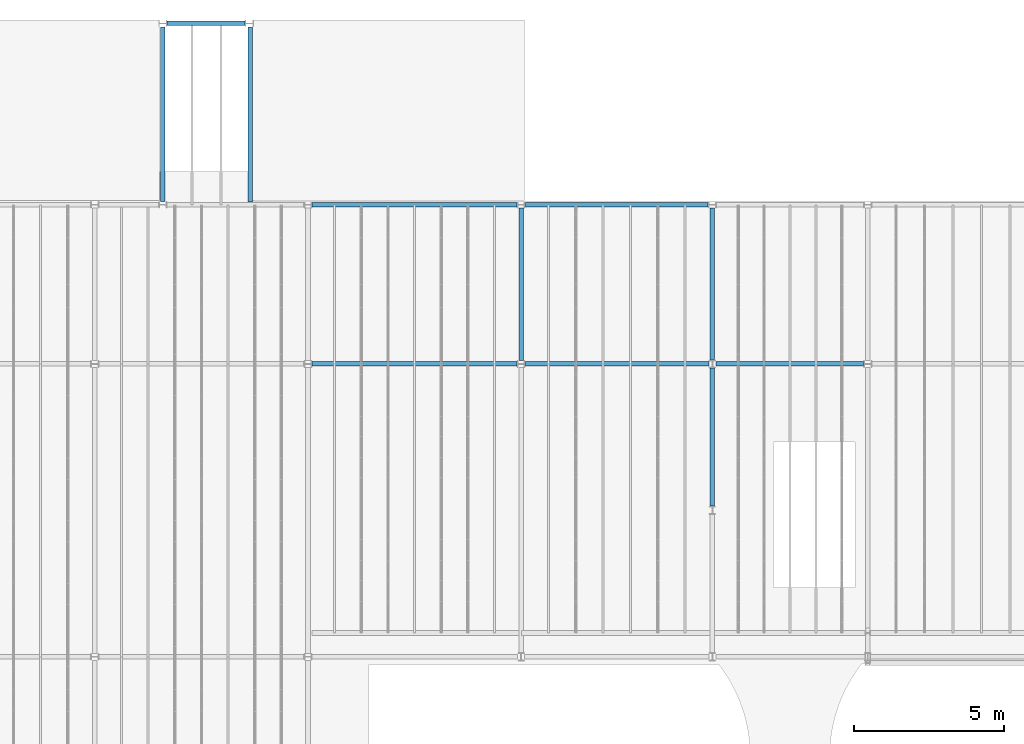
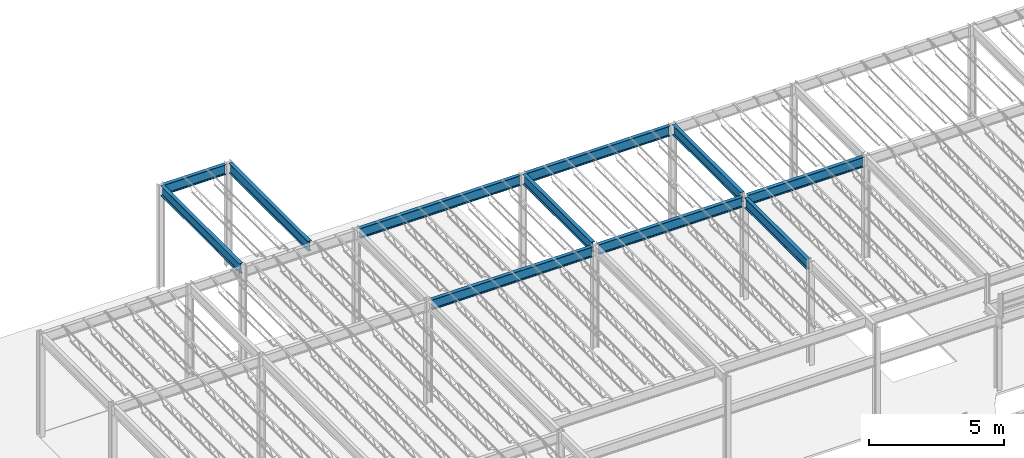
# One storey, part 17 of 119: 11 beams.
"""IFC2X3 building model written with IfcOpenShell, lengths in metres."""

import ifcopenshell
import ifcopenshell.guid

model = None  # the IFC model being written
_history = None  # IfcOwnerHistory: only IFC2X3 demands one
_inside = {}  # id of a spatial element -> (the spatial element, [elements in it])
_under = {}  # id of a project, library or spatial element -> (it, [spatial elements below it])
_declared = {}  # id of a project -> (the project, [libraries it declares])
_typed = {}  # id of a type object -> (the type object, [elements of that type])
_made_of = {}  # id of a material, layer set ... -> (it, [elements and type objects made of it])


def new_model(schema):
    """Start an empty IFC model of exactly this schema.

    Asked for "IFC4X3", IfcOpenShell would pick the latest addendum, in which some entities
    have other attributes; the version numbers below select the first issue.
    IFC2X3 requires an IfcOwnerHistory on every rooted entity: one is made here for all.
    """
    global model, _history
    if schema == "IFC4X3":
        model = ifcopenshell.file(schema_version=(4, 3, 0, 0))
    else:
        model = ifcopenshell.file(schema=schema)
    _inside.clear()
    _under.clear()
    _declared.clear()
    _typed.clear()
    _made_of.clear()
    _history = None
    if model.schema == "IFC2X3":
        org = make("IfcOrganization", Name="unknown")
        user = make(
            "IfcPersonAndOrganization",
            ThePerson=make("IfcPerson", FamilyName="unknown"),
            TheOrganization=org,
        )
        app = make(
            "IfcApplication",
            ApplicationDeveloper=org,
            Version="unknown",
            ApplicationFullName="unknown",
            ApplicationIdentifier="unknown",
        )
        _history = make(
            "IfcOwnerHistory",
            OwningUser=user,
            OwningApplication=app,
            ChangeAction="ADDED",
            CreationDate=0,
        )
    return model


def make(cls, **values):
    """One entity of the class cls with the attributes given. An attribute that is None is left unset."""
    return model.create_entity(
        cls, **{name: value for name, value in values.items() if value is not None}
    )


def entity(cls, *values):
    """Any entity or typed value of the class cls, its attributes in the order of the schema. None: left unset."""
    e = model.create_entity(cls)
    for i, value in enumerate(values):
        if value is not None:
            e[i] = value
    return e


def rooted(cls, **values):
    """An entity with a GlobalId (a new one), such as an element, a storey or a relation."""
    return make(cls, GlobalId=ifcopenshell.guid.new(), OwnerHistory=_history, **values)


def si_unit(unit_type, name, prefix=None):
    """IfcSIUnit, for example si_unit("LENGTHUNIT", "METRE", prefix="MILLI")."""
    return make("IfcSIUnit", UnitType=unit_type, Prefix=prefix, Name=name)


def converted_unit(unit_type, name, factor, base, dimensions=None, offset=None):
    """IfcConversionBasedUnit, such as the inch: factor (a typed value) times the base unit."""
    return make(
        "IfcConversionBasedUnit"
        if offset is None
        else "IfcConversionBasedUnitWithOffset",
        ConversionOffset=offset,
        Dimensions=None
        if dimensions is None
        else entity("IfcDimensionalExponents", *dimensions),
        UnitType=unit_type,
        Name=name,
        ConversionFactor=make(
            "IfcMeasureWithUnit", ValueComponent=factor, UnitComponent=base
        ),
    )


def assignment(units):
    """IfcUnitAssignment: the units of a project."""
    return None if units is None else make("IfcUnitAssignment", Units=units)


def point(xyz):
    """IfcCartesianPoint."""
    return None if xyz is None else make("IfcCartesianPoint", Coordinates=xyz)


def direction(xyz):
    """IfcDirection."""
    return None if xyz is None else make("IfcDirection", DirectionRatios=xyz)


def frame(location, z_axis=None, x_axis=None):
    """IfcAxis2Placement3D, a coordinate frame: its origin and axes. An axis left out is left unset."""
    return make(
        "IfcAxis2Placement3D",
        Location=point(location),
        Axis=direction(z_axis),
        RefDirection=direction(x_axis),
    )


def frame_2d(location, x_axis=None):
    """IfcAxis2Placement2D, a coordinate frame in the plane: its origin and x axis."""
    return make(
        "IfcAxis2Placement2D", Location=point(location), RefDirection=direction(x_axis)
    )


def origin():
    """The frame at (0, 0, 0) with its axes left unset."""
    return frame((0.0, 0.0, 0.0))


def place(relative_to, where):
    """IfcLocalPlacement: puts the frame where relative to a parent placement (None: the world)."""
    return make(
        "IfcLocalPlacement", PlacementRelTo=relative_to, RelativePlacement=where
    )


def context(
    kind, dimensions, precision=None, world=None, true_north=None, identifier=None
):
    """IfcGeometricRepresentationContext, for example the 3D "Model" context."""
    return make(
        "IfcGeometricRepresentationContext",
        ContextIdentifier=identifier,
        ContextType=kind,
        CoordinateSpaceDimension=dimensions,
        Precision=precision,
        WorldCoordinateSystem=world,
        TrueNorth=true_north,
    )


def project(units=None, contexts=None):
    """IfcProject with its units and contexts."""
    return rooted(
        "IfcProject",
        Name="project",
        RepresentationContexts=contexts,
        UnitsInContext=assignment(units),
    )


def spatial(cls, under=None, at=None, **own):
    """A site, building, storey or space (cls), placed at a placement, below another one or the project."""
    s = rooted(cls, ObjectPlacement=at, **own)
    if under is not None:
        _under.setdefault(under.id(), (under, []))[1].append(s)
    return s


def polyline(points):
    """IfcPolyline through the points."""
    return make("IfcPolyline", Points=[point(p) for p in points])


def circle_curve(where, radius):
    """IfcCircle in the frame where."""
    return make("IfcCircle", Position=where, Radius=radius)


def parameter(value):
    """IfcParameterValue: where a trimmed curve begins or ends, as a parameter of its basis curve."""
    return model.create_entity("IfcParameterValue", value)


def trimmed(basis, trim1, trim2, sense, master):
    """IfcTrimmedCurve: the piece of a basis curve between two trims."""
    return make(
        "IfcTrimmedCurve",
        BasisCurve=basis,
        Trim1=trim1,
        Trim2=trim2,
        SenseAgreement=sense,
        MasterRepresentation=master,
    )


def segment(curve, same_sense, transition):
    """IfcCompositeCurveSegment."""
    return make(
        "IfcCompositeCurveSegment",
        Transition=transition,
        SameSense=same_sense,
        ParentCurve=curve,
    )


def composite_curve(segments, self_intersect=None):
    """IfcCompositeCurve: segments joined end to end."""
    return make("IfcCompositeCurve", Segments=segments, SelfIntersect=self_intersect)


def outline(outer, holes=None, kind="AREA"):
    """IfcArbitraryClosedProfileDef: a profile drawn as a closed curve; with holes, ...WithVoids."""
    if holes is None:
        return make("IfcArbitraryClosedProfileDef", ProfileType=kind, OuterCurve=outer)
    return make(
        "IfcArbitraryProfileDefWithVoids",
        ProfileType=kind,
        OuterCurve=outer,
        InnerCurves=holes,
    )


def extrude(swept, where, along, depth):
    """IfcExtrudedAreaSolid: the profile swept, set in the frame where, extruded along a direction by depth."""
    return make(
        "IfcExtrudedAreaSolid",
        SweptArea=swept,
        Position=where,
        ExtrudedDirection=direction(along),
        Depth=depth,
    )


def shape(context_of_items, identifier, shape_type, items):
    """IfcShapeRepresentation: the items that make up one representation, for example the "Body"."""
    return make(
        "IfcShapeRepresentation",
        ContextOfItems=context_of_items,
        RepresentationIdentifier=identifier,
        RepresentationType=shape_type,
        Items=items,
    )


def material(Name=None, Category=None):
    """IfcMaterial."""
    return make("IfcMaterial", Name=Name, Category=Category)


def made_of(thing, what):
    """Note that an element or type object is made of a material, layer set ...; save() writes the relation."""
    if what is not None:
        _made_of.setdefault(what.id(), (what, []))[1].append(thing)
    return thing


def element(
    cls,
    number,
    at=None,
    inside=None,
    cuts=None,
    type_object=None,
    material=None,
    context=None,
    identifier="Body",
    shape_type=None,
    held_by="IfcProductDefinitionShape",
    body=None,
    shapes=None,
    **own,
):
    """One element of the class cls, such as IfcWall. Its Tag is "e" and its number.

    at: its placement. inside: the storey or other place that contains it. cuts: it is an
    opening in that element (IfcRelVoidsElement). A single representation is given by context,
    identifier, shape_type and body (its items); several are given by shapes. held_by: the class
    of the entity that holds the representations. save() writes the other relations.
    """
    e = rooted(cls, Tag="e%d" % number, ObjectPlacement=at, **own)
    if body is not None:
        shapes = [shape(context, identifier, shape_type, body)]
    if shapes is not None:
        e.Representation = make(held_by, Representations=shapes)
    if inside is not None:
        _inside.setdefault(inside.id(), (inside, []))[1].append(e)
    if cuts is not None:
        rooted(
            "IfcRelVoidsElement", RelatingBuildingElement=cuts, RelatedOpeningElement=e
        )
    if type_object is not None:
        _typed.setdefault(type_object.id(), (type_object, []))[1].append(e)
    return made_of(e, material)


def aggregate(whole, parts):
    """IfcRelAggregates: a whole, such as a stair, and the parts it consists of."""
    return rooted("IfcRelAggregates", RelatingObject=whole, RelatedObjects=parts)


def save(model, path):
    """Write the relations noted so far, then the file.

    IfcRelAggregates (storeys below a building ...), IfcRelContainedInSpatialStructure (elements
    in a storey), IfcRelDefinesByType, IfcRelAssociatesMaterial and IfcRelDeclares: one each for
    every whole, place, type object, material and project.
    """
    for whole, parts in _under.values():
        aggregate(whole, parts)
    for where, things in _inside.values():
        rooted(
            "IfcRelContainedInSpatialStructure",
            RelatedElements=things,
            RelatingStructure=where,
        )
    for kind, things in _typed.values():
        rooted("IfcRelDefinesByType", RelatedObjects=things, RelatingType=kind)
    for what, things in _made_of.values():
        rooted("IfcRelAssociatesMaterial", RelatedObjects=things, RelatingMaterial=what)
    for by, libraries in _declared.values():
        rooted("IfcRelDeclares", RelatingContext=by, RelatedDefinitions=libraries)
    model.write(path)


model = new_model("IFC2X3")

# Units and contexts
model_context = context("Model", 3, precision=1e-09, world=origin())
plan_context = context("Plan", 3, precision=1e-09, world=origin())
ifc_project = project(units=[si_unit("LENGTHUNIT", "METRE"), si_unit("AREAUNIT", "SQUARE_METRE"), si_unit("VOLUMEUNIT", "CUBIC_METRE"), converted_unit("PLANEANGLEUNIT", "DEGREE", entity("IfcRatioMeasure", 0.01745329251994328), si_unit("PLANEANGLEUNIT", "RADIAN"), dimensions=[0, 0, 0, 0, 0, 0, 0]), si_unit("TIMEUNIT", "SECOND")], contexts=[model_context, plan_context])

# Site, building, storey
site_placement = place(None, origin())
site = spatial("IfcSite", under=ifc_project, at=site_placement, Name="Default", CompositionType="ELEMENT")
building_placement = place(site_placement, origin())
building = spatial("IfcBuilding", under=site, at=building_placement, CompositionType="ELEMENT")
storey_placement = place(building_placement, frame((0.0, 0.0, 4.570000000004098)))
storey = spatial("IfcBuildingStorey", under=building, at=storey_placement, Name="Second Floor", CompositionType="ELEMENT", Elevation=4.570000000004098)

# Beams
ifc_material = material(Name="Metal - Steel - 345 MPa")
beam_1_placement = place(storey_placement, frame((-35.47950959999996, 50.24552240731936, 4.679999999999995)))
element("IfcBeam", 1, at=beam_1_placement, inside=storey, material=ifc_material, Name="M_W-Wide Flange:W460X60:W460X60", ObjectType="M_W-Wide Flange:W460X60", context=model_context, shape_type="SweptSolid", body=[
    extrude(outline(composite_curve([segment(polyline([(-0.07649999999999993, -0.2142000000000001), (-0.07649999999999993, -0.2275000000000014)]), True, "CONTINUOUS"), segment(polyline([(-0.07649999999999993, -0.2275000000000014), (0.07649999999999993, -0.2275000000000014)]), True, "CONTINUOUS"), segment(polyline([(0.07649999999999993, -0.2275000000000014), (0.07649999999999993, -0.2142000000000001)]), True, "CONTINUOUS"), segment(polyline([(0.07649999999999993, -0.2142000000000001), (0.0216999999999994, -0.2142000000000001)]), True, "CONTINUOUS"), segment(trimmed(circle_curve(frame_2d((0.0216999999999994, -0.1965000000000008), x_axis=(1.0, 0.0)), 0.0177), [parameter(180.0)], [parameter(269.9999999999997)], True, "PARAMETER"), False, "CONTINUOUS"), segment(polyline([(0.003999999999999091, -0.1965000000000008), (0.003999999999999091, 0.1964999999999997)]), True, "CONTINUOUS"), segment(trimmed(circle_curve(frame_2d((0.0216999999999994, 0.1964999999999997), x_axis=(1.0, 0.0)), 0.0177), [parameter(90.00000000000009)], [parameter(179.9999999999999)], True, "PARAMETER"), False, "CONTINUOUS"), segment(polyline([(0.0216999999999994, 0.2142), (0.07649999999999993, 0.2142)]), True, "CONTINUOUS"), segment(polyline([(0.07649999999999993, 0.2142), (0.07649999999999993, 0.2274999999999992)]), True, "CONTINUOUS"), segment(polyline([(0.07649999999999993, 0.2274999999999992), (-0.07649999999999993, 0.2274999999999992)]), True, "CONTINUOUS"), segment(polyline([(-0.07649999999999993, 0.2274999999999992), (-0.07649999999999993, 0.2142)]), True, "CONTINUOUS"), segment(polyline([(-0.07649999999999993, 0.2142), (-0.0216999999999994, 0.2142)]), True, "CONTINUOUS"), segment(trimmed(circle_curve(frame_2d((-0.0216999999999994, 0.1964999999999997), x_axis=(1.0, 0.0)), 0.0177), [parameter(359.9999999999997)], [parameter(89.99999999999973)], True, "PARAMETER"), False, "CONTINUOUS"), segment(polyline([(-0.003999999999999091, 0.1964999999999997), (-0.003999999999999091, -0.1965000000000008)]), True, "CONTINUOUS"), segment(trimmed(circle_curve(frame_2d((-0.0216999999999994, -0.1965000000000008), x_axis=(1.0, 0.0)), 0.0177), [parameter(269.9999999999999)], [parameter(0.0)], True, "PARAMETER"), False, "CONTINUOUS"), segment(polyline([(-0.0216999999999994, -0.2142000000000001), (-0.07649999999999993, -0.2142000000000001)]), True, "CONTINUOUS")], self_intersect=False)), frame((0.0, -0.06632240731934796, -0.2275000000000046), z_axis=(0.0, -1.0, 0.0), x_axis=(1.0, 0.0, 0.0)), (0.0, 0.0, -1.0), 5.846100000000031),
])
beam_2_placement = place(storey_placement, frame((-20.05999999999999, 39.89924697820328, 4.61649999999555)))
element("IfcBeam", 2, at=beam_2_placement, inside=storey, material=ifc_material, Name="M_W-Wide Flange:W460X60:W460X60", ObjectType="M_W-Wide Flange:W460X60", context=model_context, shape_type="SweptSolid", body=[
    extrude(outline(composite_curve([segment(polyline([(-0.07650000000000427, -0.2142000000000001), (-0.07650000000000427, -0.2275000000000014)]), True, "CONTINUOUS"), segment(polyline([(-0.07650000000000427, -0.2275000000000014), (0.0764999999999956, -0.2275000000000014)]), True, "CONTINUOUS"), segment(polyline([(0.0764999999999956, -0.2275000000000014), (0.0764999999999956, -0.2142000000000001)]), True, "CONTINUOUS"), segment(polyline([(0.0764999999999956, -0.2142000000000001), (0.02169999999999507, -0.2142000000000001)]), True, "CONTINUOUS"), segment(trimmed(circle_curve(frame_2d((0.02169999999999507, -0.1965000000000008), x_axis=(1.0, 0.0)), 0.0177), [parameter(180.0)], [parameter(269.9999999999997)], True, "PARAMETER"), False, "CONTINUOUS"), segment(polyline([(0.003999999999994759, -0.1965000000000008), (0.003999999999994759, 0.1964999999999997)]), True, "CONTINUOUS"), segment(trimmed(circle_curve(frame_2d((0.02169999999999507, 0.1964999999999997), x_axis=(1.0, 0.0)), 0.0177), [parameter(90.00000000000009)], [parameter(179.9999999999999)], True, "PARAMETER"), False, "CONTINUOUS"), segment(polyline([(0.02169999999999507, 0.2142), (0.0764999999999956, 0.2142)]), True, "CONTINUOUS"), segment(polyline([(0.0764999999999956, 0.2142), (0.0764999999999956, 0.2274999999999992)]), True, "CONTINUOUS"), segment(polyline([(0.0764999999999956, 0.2274999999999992), (-0.07650000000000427, 0.2274999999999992)]), True, "CONTINUOUS"), segment(polyline([(-0.07650000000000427, 0.2274999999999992), (-0.07650000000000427, 0.2142)]), True, "CONTINUOUS"), segment(polyline([(-0.07650000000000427, 0.2142), (-0.02170000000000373, 0.2142)]), True, "CONTINUOUS"), segment(trimmed(circle_curve(frame_2d((-0.02170000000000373, 0.1964999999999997), x_axis=(1.0, 0.0)), 0.0177), [parameter(359.9999999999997)], [parameter(89.99999999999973)], True, "PARAMETER"), False, "CONTINUOUS"), segment(polyline([(-0.004000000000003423, 0.1964999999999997), (-0.004000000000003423, -0.1965000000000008)]), True, "CONTINUOUS"), segment(trimmed(circle_curve(frame_2d((-0.02170000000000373, -0.1965000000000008), x_axis=(1.0, 0.0)), 0.0177), [parameter(269.9999999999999)], [parameter(0.0)], True, "PARAMETER"), False, "CONTINUOUS"), segment(polyline([(-0.02170000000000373, -0.2142000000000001), (-0.07650000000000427, -0.2142000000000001)]), True, "CONTINUOUS")], self_intersect=False)), frame((0.0, 0.1373322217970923, -0.2275000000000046), z_axis=(0.0, -1.0, 0.0), x_axis=(1.0, 0.0, 0.0)), (0.0, 0.0, -1.0), 4.60222079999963),
])
beam_3_placement = place(storey_placement, frame((-38.38999999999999, 56.13687699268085, 4.679999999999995), z_axis=(0.0, 0.0, 1.0), x_axis=(-1.0, 0.0, 0.0)))
element("IfcBeam", 3, at=beam_3_placement, inside=storey, material=ifc_material, Name="M_W-Wide Flange:W460X60:W460X60", ObjectType="M_W-Wide Flange:W460X60", context=model_context, shape_type="SweptSolid", body=[
    extrude(outline(composite_curve([segment(polyline([(0.2142000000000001, -0.07649999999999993), (0.2275000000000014, -0.07649999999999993)]), True, "CONTINUOUS"), segment(polyline([(0.2275000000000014, -0.07649999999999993), (0.2275000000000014, 0.07649999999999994)]), True, "CONTINUOUS"), segment(polyline([(0.2275000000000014, 0.07649999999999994), (0.2142000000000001, 0.07649999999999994)]), True, "CONTINUOUS"), segment(polyline([(0.2142000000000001, 0.07649999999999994), (0.2142000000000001, 0.0216999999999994)]), True, "CONTINUOUS"), segment(trimmed(circle_curve(frame_2d((0.1965000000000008, 0.0216999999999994), x_axis=(0.0, 1.0)), 0.0177), [parameter(180.0)], [parameter(269.9999999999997)], True, "PARAMETER"), False, "CONTINUOUS"), segment(polyline([(0.1965000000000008, 0.003999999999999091), (-0.1964999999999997, 0.003999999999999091)]), True, "CONTINUOUS"), segment(trimmed(circle_curve(frame_2d((-0.1964999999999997, 0.0216999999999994), x_axis=(0.0, 1.0)), 0.0177), [parameter(90.00000000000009)], [parameter(179.9999999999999)], True, "PARAMETER"), False, "CONTINUOUS"), segment(polyline([(-0.2142, 0.0216999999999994), (-0.2142, 0.07649999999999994)]), True, "CONTINUOUS"), segment(polyline([(-0.2142, 0.07649999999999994), (-0.2274999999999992, 0.07649999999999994)]), True, "CONTINUOUS"), segment(polyline([(-0.2274999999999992, 0.07649999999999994), (-0.2274999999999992, -0.07649999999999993)]), True, "CONTINUOUS"), segment(polyline([(-0.2274999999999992, -0.07649999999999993), (-0.2142, -0.07649999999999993)]), True, "CONTINUOUS"), segment(polyline([(-0.2142, -0.07649999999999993), (-0.2142, -0.0216999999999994)]), True, "CONTINUOUS"), segment(trimmed(circle_curve(frame_2d((-0.1964999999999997, -0.0216999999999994), x_axis=(0.0, 1.0)), 0.0177), [parameter(359.9999999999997)], [parameter(89.99999999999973)], True, "PARAMETER"), False, "CONTINUOUS"), segment(polyline([(-0.1964999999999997, -0.00399999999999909), (0.1965000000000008, -0.00399999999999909)]), True, "CONTINUOUS"), segment(trimmed(circle_curve(frame_2d((0.1965000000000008, -0.0216999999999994), x_axis=(0.0, 1.0)), 0.0177), [parameter(269.9999999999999)], [parameter(0.0)], True, "PARAMETER"), False, "CONTINUOUS"), segment(polyline([(0.2142000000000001, -0.0216999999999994), (0.2142000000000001, -0.07649999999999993)]), True, "CONTINUOUS")], self_intersect=False)), frame((0.0, 5.932176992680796, -0.2275000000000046), z_axis=(0.0, -1.0, 0.0), x_axis=(0.0, 0.0, -1.0)), (0.0, 0.0, 1.0), 5.820600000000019),
])
beam_4_placement = place(storey_placement, frame((-20.06296151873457, 50.08999999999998, 4.61649999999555), z_axis=(0.0, 0.0, 1.0), x_axis=(0.0, 1.0, 0.0)))
element("IfcBeam", 4, at=beam_4_placement, inside=storey, material=ifc_material, Name="M_W-Wide Flange:W460X60:W460X60", ObjectType="M_W-Wide Flange:W460X60", context=model_context, shape_type="SweptSolid", body=[
    extrude(outline(composite_curve([segment(polyline([(0.2142000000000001, -0.07649999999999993), (0.2275000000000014, -0.07649999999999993)]), True, "CONTINUOUS"), segment(polyline([(0.2275000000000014, -0.07649999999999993), (0.2275000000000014, 0.07649999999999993)]), True, "CONTINUOUS"), segment(polyline([(0.2275000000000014, 0.07649999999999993), (0.2142000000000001, 0.07649999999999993)]), True, "CONTINUOUS"), segment(polyline([(0.2142000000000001, 0.07649999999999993), (0.2142000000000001, 0.02170000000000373)]), True, "CONTINUOUS"), segment(trimmed(circle_curve(frame_2d((0.1965000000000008, 0.02170000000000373), x_axis=(1.0, 0.0)), 0.0177), [parameter(269.9999999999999)], [parameter(359.9999999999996)], True, "PARAMETER"), False, "CONTINUOUS"), segment(polyline([(0.1965000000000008, 0.003999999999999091), (-0.1964999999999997, 0.003999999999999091)]), True, "CONTINUOUS"), segment(trimmed(circle_curve(frame_2d((-0.1964999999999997, 0.02170000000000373), x_axis=(0.0, -1.0)), 0.0177), [parameter(269.9999999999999)], [parameter(359.9999999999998)], True, "PARAMETER"), False, "CONTINUOUS"), segment(polyline([(-0.2142, 0.02170000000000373), (-0.2142, 0.07649999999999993)]), True, "CONTINUOUS"), segment(polyline([(-0.2142, 0.07649999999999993), (-0.2274999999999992, 0.07649999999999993)]), True, "CONTINUOUS"), segment(polyline([(-0.2274999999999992, 0.07649999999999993), (-0.2274999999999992, -0.07649999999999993)]), True, "CONTINUOUS"), segment(polyline([(-0.2274999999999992, -0.07649999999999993), (-0.2142, -0.07649999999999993)]), True, "CONTINUOUS"), segment(polyline([(-0.2142, -0.07649999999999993), (-0.2142, -0.02170000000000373)]), True, "CONTINUOUS"), segment(trimmed(circle_curve(frame_2d((-0.1964999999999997, -0.02169999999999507), x_axis=(-1.0, 0.0)), 0.0177), [parameter(269.9999999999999)], [parameter(359.9999999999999)], True, "PARAMETER"), False, "CONTINUOUS"), segment(polyline([(-0.1964999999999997, -0.003999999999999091), (0.1965000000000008, -0.003999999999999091)]), True, "CONTINUOUS"), segment(trimmed(circle_curve(frame_2d((0.1965000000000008, -0.02169999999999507), x_axis=(0.0, 1.0)), 0.0177), [parameter(269.9999999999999)], [parameter(5.088887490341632e-14)], True, "PARAMETER"), False, "CONTINUOUS"), segment(polyline([(0.2142000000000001, -0.02170000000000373), (0.2142000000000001, -0.07649999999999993)]), True, "CONTINUOUS")], self_intersect=False)), frame((0.0, 6.235838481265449, -0.2275000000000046), z_axis=(0.0, -1.0, 0.0), x_axis=(0.0, 0.0, -1.0)), (0.0, 0.0, 1.0), 6.097600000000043),
])
beam_5_placement = place(storey_placement, frame((-20.05999999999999, 44.78355806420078, 4.679999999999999)))
element("IfcBeam", 5, at=beam_5_placement, inside=storey, material=ifc_material, Name="M_W-Wide Flange:W460X60:W460X60", ObjectType="M_W-Wide Flange:W460X60", context=model_context, shape_type="SweptSolid", body=[
    extrude(outline(composite_curve([segment(polyline([(-0.07649999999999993, -0.214199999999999), (-0.07649999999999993, -0.2275000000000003)]), True, "CONTINUOUS"), segment(polyline([(-0.07649999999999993, -0.2275000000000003), (0.07649999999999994, -0.2275000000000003)]), True, "CONTINUOUS"), segment(polyline([(0.07649999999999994, -0.2275000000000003), (0.07649999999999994, -0.214199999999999)]), True, "CONTINUOUS"), segment(polyline([(0.07649999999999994, -0.214199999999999), (0.02169999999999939, -0.214199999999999)]), True, "CONTINUOUS"), segment(trimmed(circle_curve(frame_2d((0.02169999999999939, -0.1964999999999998), x_axis=(1.0, 0.0)), 0.0177), [parameter(180.0)], [parameter(269.9999999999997)], True, "PARAMETER"), False, "CONTINUOUS"), segment(polyline([(0.003999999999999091, -0.1964999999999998), (0.003999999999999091, 0.1965000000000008)]), True, "CONTINUOUS"), segment(trimmed(circle_curve(frame_2d((0.02169999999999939, 0.1965000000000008), x_axis=(1.0, 0.0)), 0.0177), [parameter(90.00000000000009)], [parameter(179.9999999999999)], True, "PARAMETER"), False, "CONTINUOUS"), segment(polyline([(0.02169999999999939, 0.2142000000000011), (0.07649999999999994, 0.2142000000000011)]), True, "CONTINUOUS"), segment(polyline([(0.07649999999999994, 0.2142000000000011), (0.07649999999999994, 0.2275000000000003)]), True, "CONTINUOUS"), segment(polyline([(0.07649999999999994, 0.2275000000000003), (-0.07649999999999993, 0.2275000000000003)]), True, "CONTINUOUS"), segment(polyline([(-0.07649999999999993, 0.2275000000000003), (-0.07649999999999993, 0.2142000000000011)]), True, "CONTINUOUS"), segment(polyline([(-0.07649999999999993, 0.2142000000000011), (-0.0216999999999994, 0.2142000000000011)]), True, "CONTINUOUS"), segment(trimmed(circle_curve(frame_2d((-0.0216999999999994, 0.1965000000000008), x_axis=(1.0, 0.0)), 0.0177), [parameter(359.9999999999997)], [parameter(89.99999999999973)], True, "PARAMETER"), False, "CONTINUOUS"), segment(polyline([(-0.00399999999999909, 0.1965000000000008), (-0.00399999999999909, -0.1964999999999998)]), True, "CONTINUOUS"), segment(trimmed(circle_curve(frame_2d((-0.0216999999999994, -0.1964999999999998), x_axis=(1.0, 0.0)), 0.0177), [parameter(269.9999999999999)], [parameter(0.0)], True, "PARAMETER"), False, "CONTINUOUS"), segment(polyline([(-0.0216999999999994, -0.214199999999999), (-0.07649999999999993, -0.214199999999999)]), True, "CONTINUOUS")], self_intersect=False)), frame((0.0, 0.1376419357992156, -0.2275000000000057), z_axis=(0.0, -1.0, 0.0), x_axis=(1.0, 0.0, 0.0)), (0.0, 0.0, -1.0), 5.054100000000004),
])
beam_6_placement = place(storey_placement, frame((-33.54734247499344, 50.09000000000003, 4.61649999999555), z_axis=(0.0, 0.0, 1.0), x_axis=(0.0, -1.0, 0.0)))
element("IfcBeam", 6, at=beam_6_placement, inside=storey, material=ifc_material, Name="M_W-Wide Flange:W460X60:W460X60", ObjectType="M_W-Wide Flange:W460X60", context=model_context, shape_type="SweptSolid", body=[
    extrude(outline(composite_curve([segment(polyline([(-0.07649999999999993, -0.2142000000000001), (-0.07649999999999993, -0.2275000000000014)]), True, "CONTINUOUS"), segment(polyline([(-0.07649999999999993, -0.2275000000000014), (0.07649999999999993, -0.2275000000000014)]), True, "CONTINUOUS"), segment(polyline([(0.07649999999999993, -0.2275000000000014), (0.07649999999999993, -0.2142000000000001)]), True, "CONTINUOUS"), segment(polyline([(0.07649999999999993, -0.2142000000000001), (0.02170000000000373, -0.2142000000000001)]), True, "CONTINUOUS"), segment(trimmed(circle_curve(frame_2d((0.02169999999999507, -0.1965000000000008), x_axis=(0.0, -1.0)), 0.0177), [parameter(269.9999999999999)], [parameter(359.9999999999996)], True, "PARAMETER"), False, "CONTINUOUS"), segment(polyline([(0.003999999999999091, -0.1965000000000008), (0.003999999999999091, 0.1964999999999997)]), True, "CONTINUOUS"), segment(trimmed(circle_curve(frame_2d((0.02169999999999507, 0.1964999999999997), x_axis=(-1.0, 0.0)), 0.0177), [parameter(269.9999999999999)], [parameter(359.9999999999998)], True, "PARAMETER"), False, "CONTINUOUS"), segment(polyline([(0.02170000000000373, 0.2142), (0.07649999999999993, 0.2142)]), True, "CONTINUOUS"), segment(polyline([(0.07649999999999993, 0.2142), (0.07649999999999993, 0.2274999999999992)]), True, "CONTINUOUS"), segment(polyline([(0.07649999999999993, 0.2274999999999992), (-0.07649999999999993, 0.2274999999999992)]), True, "CONTINUOUS"), segment(polyline([(-0.07649999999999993, 0.2274999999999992), (-0.07649999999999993, 0.2142)]), True, "CONTINUOUS"), segment(polyline([(-0.07649999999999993, 0.2142), (-0.02170000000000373, 0.2142)]), True, "CONTINUOUS"), segment(trimmed(circle_curve(frame_2d((-0.02170000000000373, 0.1964999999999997), x_axis=(0.0, 1.0)), 0.0177), [parameter(269.9999999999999)], [parameter(359.9999999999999)], True, "PARAMETER"), False, "CONTINUOUS"), segment(polyline([(-0.003999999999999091, 0.1964999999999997), (-0.003999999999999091, -0.1965000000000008)]), True, "CONTINUOUS"), segment(trimmed(circle_curve(frame_2d((-0.02170000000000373, -0.1965000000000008), x_axis=(1.0, 0.0)), 0.0177), [parameter(269.9999999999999)], [parameter(5.088887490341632e-14)], True, "PARAMETER"), False, "CONTINUOUS"), segment(polyline([(-0.02170000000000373, -0.2142000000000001), (-0.07649999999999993, -0.2142000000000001)]), True, "CONTINUOUS")], self_intersect=False)), frame((0.0, 0.138542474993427, -0.2275000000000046), z_axis=(0.0, -1.0, 0.0), x_axis=(1.0, 0.0, 0.0)), (0.0, 0.0, -1.0), 6.827600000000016),
])
beam_7_placement = place(storey_placement, frame((-26.43703848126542, 44.78000000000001, 4.61649999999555), z_axis=(0.0, 0.0, 1.0), x_axis=(0.0, -1.0, 0.0)))
element("IfcBeam", 7, at=beam_7_placement, inside=storey, material=ifc_material, Name="M_W-Wide Flange:W460X60:W460X60", ObjectType="M_W-Wide Flange:W460X60", context=model_context, shape_type="SweptSolid", body=[
    extrude(outline(composite_curve([segment(polyline([(-0.07649999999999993, -0.2142000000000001), (-0.07649999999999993, -0.2275000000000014)]), True, "CONTINUOUS"), segment(polyline([(-0.07649999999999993, -0.2275000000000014), (0.07649999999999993, -0.2275000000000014)]), True, "CONTINUOUS"), segment(polyline([(0.07649999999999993, -0.2275000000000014), (0.07649999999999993, -0.2142000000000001)]), True, "CONTINUOUS"), segment(polyline([(0.07649999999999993, -0.2142000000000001), (0.02170000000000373, -0.2142000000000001)]), True, "CONTINUOUS"), segment(trimmed(circle_curve(frame_2d((0.02170000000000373, -0.1965000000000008), x_axis=(0.0, -1.0)), 0.0177), [parameter(269.9999999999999)], [parameter(359.9999999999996)], True, "PARAMETER"), False, "CONTINUOUS"), segment(polyline([(0.003999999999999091, -0.1965000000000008), (0.003999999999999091, 0.1964999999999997)]), True, "CONTINUOUS"), segment(trimmed(circle_curve(frame_2d((0.02170000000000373, 0.1964999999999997), x_axis=(-1.0, 0.0)), 0.0177), [parameter(269.9999999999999)], [parameter(359.9999999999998)], True, "PARAMETER"), False, "CONTINUOUS"), segment(polyline([(0.02170000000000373, 0.2142), (0.07649999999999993, 0.2142)]), True, "CONTINUOUS"), segment(polyline([(0.07649999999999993, 0.2142), (0.07649999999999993, 0.2274999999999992)]), True, "CONTINUOUS"), segment(polyline([(0.07649999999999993, 0.2274999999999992), (-0.07649999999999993, 0.2274999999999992)]), True, "CONTINUOUS"), segment(polyline([(-0.07649999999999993, 0.2274999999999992), (-0.07649999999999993, 0.2142)]), True, "CONTINUOUS"), segment(polyline([(-0.07649999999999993, 0.2142), (-0.02170000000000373, 0.2142)]), True, "CONTINUOUS"), segment(trimmed(circle_curve(frame_2d((-0.02169999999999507, 0.1964999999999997), x_axis=(0.0, 1.0)), 0.0177), [parameter(269.9999999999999)], [parameter(359.9999999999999)], True, "PARAMETER"), False, "CONTINUOUS"), segment(polyline([(-0.003999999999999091, 0.1964999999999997), (-0.003999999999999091, -0.1965000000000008)]), True, "CONTINUOUS"), segment(trimmed(circle_curve(frame_2d((-0.02169999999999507, -0.1965000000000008), x_axis=(1.0, 0.0)), 0.0177), [parameter(269.9999999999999)], [parameter(5.088887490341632e-14)], True, "PARAMETER"), False, "CONTINUOUS"), segment(polyline([(-0.02170000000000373, -0.2142000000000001), (-0.07649999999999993, -0.2142000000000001)]), True, "CONTINUOUS")], self_intersect=False)), frame((0.0, 0.1382384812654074, -0.2275000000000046), z_axis=(0.0, -1.0, 0.0), x_axis=(1.0, 0.0, 0.0)), (0.0, 0.0, -1.0), 6.12410000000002),
])
beam_8_placement = place(storey_placement, frame((-20.05635269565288, 44.77999999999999, 4.61649999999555), z_axis=(0.0, 0.0, 1.0), x_axis=(0.0, -1.0, 0.0)))
element("IfcBeam", 8, at=beam_8_placement, inside=storey, material=ifc_material, Name="M_W-Wide Flange:W460X60:W460X60", ObjectType="M_W-Wide Flange:W460X60", context=model_context, shape_type="SweptSolid", body=[
    extrude(outline(composite_curve([segment(polyline([(-0.07649999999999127, -0.2142000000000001), (-0.07649999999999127, -0.2275000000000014)]), True, "CONTINUOUS"), segment(polyline([(-0.07649999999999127, -0.2275000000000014), (0.07650000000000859, -0.2275000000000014)]), True, "CONTINUOUS"), segment(polyline([(0.07650000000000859, -0.2275000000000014), (0.07650000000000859, -0.2142000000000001)]), True, "CONTINUOUS"), segment(polyline([(0.07650000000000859, -0.2142000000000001), (0.02170000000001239, -0.2142000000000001)]), True, "CONTINUOUS"), segment(trimmed(circle_curve(frame_2d((0.02170000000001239, -0.1965000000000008), x_axis=(0.0, -1.0)), 0.0177), [parameter(269.9999999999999)], [parameter(359.9999999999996)], True, "PARAMETER"), False, "CONTINUOUS"), segment(polyline([(0.004000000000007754, -0.1965000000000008), (0.004000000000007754, 0.1964999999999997)]), True, "CONTINUOUS"), segment(trimmed(circle_curve(frame_2d((0.02170000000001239, 0.1964999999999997), x_axis=(-1.0, 0.0)), 0.0177), [parameter(269.9999999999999)], [parameter(359.9999999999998)], True, "PARAMETER"), False, "CONTINUOUS"), segment(polyline([(0.02170000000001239, 0.2142), (0.07650000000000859, 0.2142)]), True, "CONTINUOUS"), segment(polyline([(0.07650000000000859, 0.2142), (0.07650000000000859, 0.2274999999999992)]), True, "CONTINUOUS"), segment(polyline([(0.07650000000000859, 0.2274999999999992), (-0.07649999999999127, 0.2274999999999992)]), True, "CONTINUOUS"), segment(polyline([(-0.07649999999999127, 0.2274999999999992), (-0.07649999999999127, 0.2142)]), True, "CONTINUOUS"), segment(polyline([(-0.07649999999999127, 0.2142), (-0.02169999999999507, 0.2142)]), True, "CONTINUOUS"), segment(trimmed(circle_curve(frame_2d((-0.0216999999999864, 0.1964999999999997), x_axis=(0.0, 1.0)), 0.0177), [parameter(269.9999999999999)], [parameter(359.9999999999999)], True, "PARAMETER"), False, "CONTINUOUS"), segment(polyline([(-0.003999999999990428, 0.1964999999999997), (-0.003999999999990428, -0.1965000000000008)]), True, "CONTINUOUS"), segment(trimmed(circle_curve(frame_2d((-0.0216999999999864, -0.1965000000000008), x_axis=(1.0, 0.0)), 0.0177), [parameter(269.9999999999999)], [parameter(5.088887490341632e-14)], True, "PARAMETER"), False, "CONTINUOUS"), segment(polyline([(-0.02169999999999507, -0.2142000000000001), (-0.07649999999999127, -0.2142000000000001)]), True, "CONTINUOUS")], self_intersect=False)), frame((0.0, 0.111052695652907, -0.2275000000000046), z_axis=(0.0, -1.0, 0.0), x_axis=(1.0, 0.0, 0.0)), (0.0, 0.0, -1.0), 4.924125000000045),
])
beam_9_placement = place(storey_placement, frame((-33.54734247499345, 44.78000000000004, 4.61649999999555), z_axis=(0.0, 0.0, 1.0), x_axis=(0.0, -1.0, 0.0)))
element("IfcBeam", 9, at=beam_9_placement, inside=storey, material=ifc_material, Name="M_W-Wide Flange:W460X60:W460X60", ObjectType="M_W-Wide Flange:W460X60", context=model_context, shape_type="SweptSolid", body=[
    extrude(outline(composite_curve([segment(polyline([(-0.07650000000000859, -0.2142000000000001), (-0.07650000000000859, -0.2275000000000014)]), True, "CONTINUOUS"), segment(polyline([(-0.07650000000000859, -0.2275000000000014), (0.07649999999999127, -0.2275000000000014)]), True, "CONTINUOUS"), segment(polyline([(0.07649999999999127, -0.2275000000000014), (0.07649999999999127, -0.2142000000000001)]), True, "CONTINUOUS"), segment(polyline([(0.07649999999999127, -0.2142000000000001), (0.02169999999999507, -0.2142000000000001)]), True, "CONTINUOUS"), segment(trimmed(circle_curve(frame_2d((0.0216999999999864, -0.1965000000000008), x_axis=(0.0, -1.0)), 0.0177), [parameter(269.9999999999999)], [parameter(359.9999999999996)], True, "PARAMETER"), False, "CONTINUOUS"), segment(polyline([(0.003999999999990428, -0.1965000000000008), (0.003999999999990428, 0.1964999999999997)]), True, "CONTINUOUS"), segment(trimmed(circle_curve(frame_2d((0.0216999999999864, 0.1964999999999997), x_axis=(-1.0, 0.0)), 0.0177), [parameter(269.9999999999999)], [parameter(359.9999999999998)], True, "PARAMETER"), False, "CONTINUOUS"), segment(polyline([(0.02169999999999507, 0.2142), (0.07649999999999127, 0.2142)]), True, "CONTINUOUS"), segment(polyline([(0.07649999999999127, 0.2142), (0.07649999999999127, 0.2274999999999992)]), True, "CONTINUOUS"), segment(polyline([(0.07649999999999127, 0.2274999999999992), (-0.07650000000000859, 0.2274999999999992)]), True, "CONTINUOUS"), segment(polyline([(-0.07650000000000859, 0.2274999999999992), (-0.07650000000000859, 0.2142)]), True, "CONTINUOUS"), segment(polyline([(-0.07650000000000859, 0.2142), (-0.02170000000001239, 0.2142)]), True, "CONTINUOUS"), segment(trimmed(circle_curve(frame_2d((-0.02170000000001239, 0.1964999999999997), x_axis=(0.0, 1.0)), 0.0177), [parameter(269.9999999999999)], [parameter(359.9999999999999)], True, "PARAMETER"), False, "CONTINUOUS"), segment(polyline([(-0.004000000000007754, 0.1964999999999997), (-0.004000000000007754, -0.1965000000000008)]), True, "CONTINUOUS"), segment(trimmed(circle_curve(frame_2d((-0.02170000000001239, -0.1965000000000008), x_axis=(1.0, 0.0)), 0.0177), [parameter(269.9999999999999)], [parameter(5.088887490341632e-14)], True, "PARAMETER"), False, "CONTINUOUS"), segment(polyline([(-0.02170000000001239, -0.2142000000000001), (-0.07650000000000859, -0.2142000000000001)]), True, "CONTINUOUS")], self_intersect=False)), frame((0.0, 0.1385424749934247, -0.2275000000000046), z_axis=(0.0, -1.0, 0.0), x_axis=(1.0, 0.0, 0.0)), (0.0, 0.0, -1.0), 6.827600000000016),
])
beam_10_placement = place(storey_placement, frame((-26.44, 50.08644193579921, 4.679999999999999), z_axis=(0.0, 0.0, 1.0), x_axis=(-1.0, 0.0, 0.0)))
element("IfcBeam", 10, at=beam_10_placement, inside=storey, material=ifc_material, Name="M_W-Wide Flange:W460X60:W460X60", ObjectType="M_W-Wide Flange:W460X60", context=model_context, shape_type="SweptSolid", body=[
    extrude(outline(composite_curve([segment(polyline([(0.214199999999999, -0.07649999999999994), (0.2275000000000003, -0.07649999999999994)]), True, "CONTINUOUS"), segment(polyline([(0.2275000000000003, -0.07649999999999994), (0.2275000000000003, 0.07649999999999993)]), True, "CONTINUOUS"), segment(polyline([(0.2275000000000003, 0.07649999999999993), (0.214199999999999, 0.07649999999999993)]), True, "CONTINUOUS"), segment(polyline([(0.214199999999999, 0.07649999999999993), (0.214199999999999, 0.0216999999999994)]), True, "CONTINUOUS"), segment(trimmed(circle_curve(frame_2d((0.1964999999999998, 0.0216999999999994), x_axis=(1.0, 0.0)), 0.0177), [parameter(269.9999999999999)], [parameter(359.9999999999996)], True, "PARAMETER"), False, "CONTINUOUS"), segment(polyline([(0.1964999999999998, 0.003999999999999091), (-0.1965000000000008, 0.003999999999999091)]), True, "CONTINUOUS"), segment(trimmed(circle_curve(frame_2d((-0.1965000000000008, 0.0216999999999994), x_axis=(0.0, -1.0)), 0.0177), [parameter(269.9999999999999)], [parameter(359.9999999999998)], True, "PARAMETER"), False, "CONTINUOUS"), segment(polyline([(-0.2142000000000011, 0.0216999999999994), (-0.2142000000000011, 0.07649999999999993)]), True, "CONTINUOUS"), segment(polyline([(-0.2142000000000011, 0.07649999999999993), (-0.2275000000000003, 0.07649999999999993)]), True, "CONTINUOUS"), segment(polyline([(-0.2275000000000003, 0.07649999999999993), (-0.2275000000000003, -0.07649999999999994)]), True, "CONTINUOUS"), segment(polyline([(-0.2275000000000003, -0.07649999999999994), (-0.2142000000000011, -0.07649999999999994)]), True, "CONTINUOUS"), segment(polyline([(-0.2142000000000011, -0.07649999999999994), (-0.2142000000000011, -0.0216999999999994)]), True, "CONTINUOUS"), segment(trimmed(circle_curve(frame_2d((-0.1965000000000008, -0.0216999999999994), x_axis=(-1.0, 0.0)), 0.0177), [parameter(269.9999999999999)], [parameter(359.9999999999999)], True, "PARAMETER"), False, "CONTINUOUS"), segment(polyline([(-0.1965000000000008, -0.00399999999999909), (0.1964999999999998, -0.00399999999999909)]), True, "CONTINUOUS"), segment(trimmed(circle_curve(frame_2d((0.1964999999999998, -0.0216999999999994), x_axis=(0.0, 1.0)), 0.0177), [parameter(269.9999999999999)], [parameter(5.088887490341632e-14)], True, "PARAMETER"), False, "CONTINUOUS"), segment(polyline([(0.214199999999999, -0.0216999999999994), (0.214199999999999, -0.07649999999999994)]), True, "CONTINUOUS")], self_intersect=False)), frame((0.0, 5.191741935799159, -0.2275000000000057), z_axis=(0.0, -1.0, 0.0), x_axis=(0.0, 0.0, -1.0)), (0.0, 0.0, 1.0), 5.080599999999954),
])
beam_11_placement = place(storey_placement, frame((-38.38344298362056, 56.14000000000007, 4.61649999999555), z_axis=(0.0, 0.0, 1.0), x_axis=(0.0, -1.0, 0.0)))
element("IfcBeam", 11, at=beam_11_placement, inside=storey, material=ifc_material, Name="M_W-Wide Flange:W460X60:W460X60", ObjectType="M_W-Wide Flange:W460X60", context=model_context, shape_type="SweptSolid", body=[
    extrude(outline(composite_curve([segment(polyline([(-0.07649999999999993, -0.2142000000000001), (-0.07649999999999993, -0.2275000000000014)]), True, "CONTINUOUS"), segment(polyline([(-0.07649999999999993, -0.2275000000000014), (0.07649999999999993, -0.2275000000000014)]), True, "CONTINUOUS"), segment(polyline([(0.07649999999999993, -0.2275000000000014), (0.07649999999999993, -0.2142000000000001)]), True, "CONTINUOUS"), segment(polyline([(0.07649999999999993, -0.2142000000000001), (0.02170000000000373, -0.2142000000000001)]), True, "CONTINUOUS"), segment(trimmed(circle_curve(frame_2d((0.02169999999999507, -0.1965000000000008), x_axis=(0.0, -1.0)), 0.0177), [parameter(269.9999999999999)], [parameter(359.9999999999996)], True, "PARAMETER"), False, "CONTINUOUS"), segment(polyline([(0.003999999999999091, -0.1965000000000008), (0.003999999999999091, 0.1964999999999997)]), True, "CONTINUOUS"), segment(trimmed(circle_curve(frame_2d((0.02169999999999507, 0.1964999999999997), x_axis=(-1.0, 0.0)), 0.0177), [parameter(269.9999999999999)], [parameter(359.9999999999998)], True, "PARAMETER"), False, "CONTINUOUS"), segment(polyline([(0.02170000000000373, 0.2142), (0.07649999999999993, 0.2142)]), True, "CONTINUOUS"), segment(polyline([(0.07649999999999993, 0.2142), (0.07649999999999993, 0.2274999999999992)]), True, "CONTINUOUS"), segment(polyline([(0.07649999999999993, 0.2274999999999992), (-0.07649999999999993, 0.2274999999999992)]), True, "CONTINUOUS"), segment(polyline([(-0.07649999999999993, 0.2274999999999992), (-0.07649999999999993, 0.2142)]), True, "CONTINUOUS"), segment(polyline([(-0.07649999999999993, 0.2142), (-0.02170000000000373, 0.2142)]), True, "CONTINUOUS"), segment(trimmed(circle_curve(frame_2d((-0.02170000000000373, 0.1964999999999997), x_axis=(0.0, 1.0)), 0.0177), [parameter(269.9999999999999)], [parameter(359.9999999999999)], True, "PARAMETER"), False, "CONTINUOUS"), segment(polyline([(-0.003999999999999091, 0.1964999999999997), (-0.003999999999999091, -0.1965000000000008)]), True, "CONTINUOUS"), segment(trimmed(circle_curve(frame_2d((-0.02170000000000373, -0.1965000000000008), x_axis=(1.0, 0.0)), 0.0177), [parameter(269.9999999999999)], [parameter(5.088887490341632e-14)], True, "PARAMETER"), False, "CONTINUOUS"), segment(polyline([(-0.02170000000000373, -0.2142000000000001), (-0.07649999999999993, -0.2142000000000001)]), True, "CONTINUOUS")], self_intersect=False)), frame((0.0, 0.1346429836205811, -0.2275000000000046), z_axis=(0.0, -1.0, 0.0), x_axis=(1.0, 0.0, 0.0)), (0.0, 0.0, -1.0), 2.597600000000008),
])

save(model, "model.ifc")
